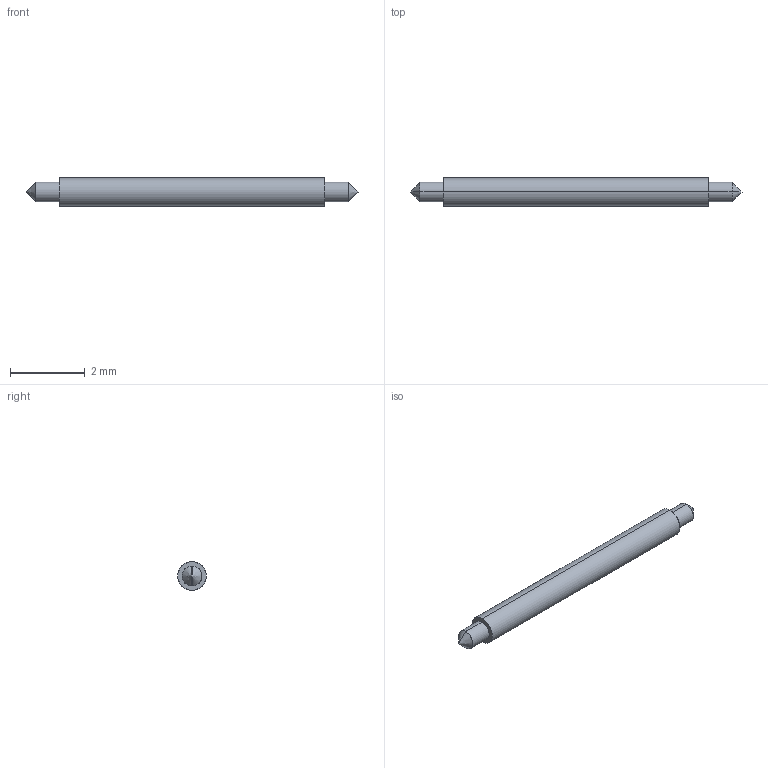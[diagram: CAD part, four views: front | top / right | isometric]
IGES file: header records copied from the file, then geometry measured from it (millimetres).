
Start section: SolidWorks IGES file using analytic representation for surfaces
Global section: file name: Z:\probe solid model mockups\Solidworks models\IGES Files\CSP1-1.27 IGES files\CSP1-1.27BB.IGS; native system: SolidWorks 2006 by SolidWorks Corporation; preprocessor: SolidWorks 2006 by SolidWorks Corporation; author: tsakatani; date: 080108.155025; units: inch
Bounding box: 8.89 x 0.76 x 0.76 mm (x, y, z)
Surface area: 20.2 mm2 (no closed solid volume)
Topology: 0 solids, 0 shells, 12 faces, 104 edges, 100 vertices
Faces by surface type: revolution 10, bspline 2
